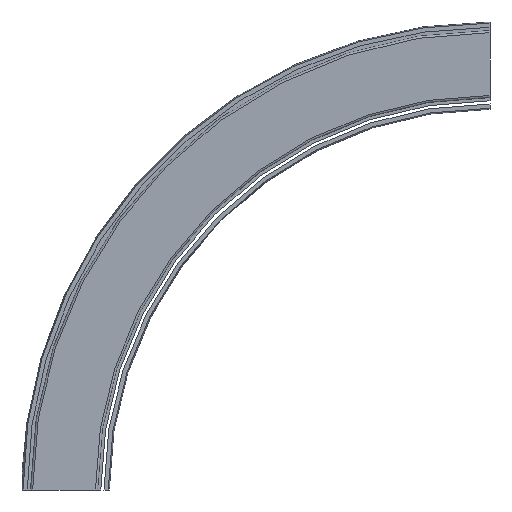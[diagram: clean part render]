
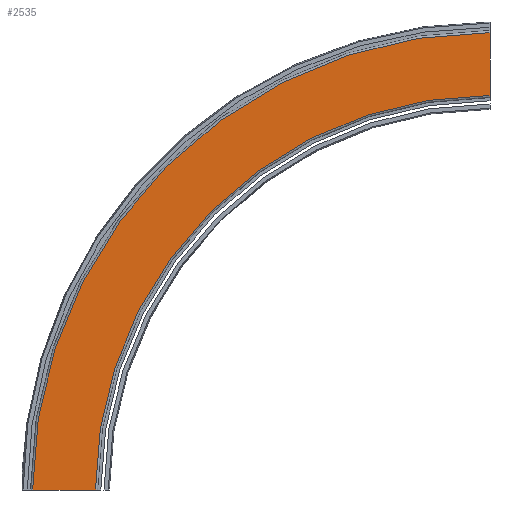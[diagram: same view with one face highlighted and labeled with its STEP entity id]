
A CAD part, left-side view. The second image highlights one B-rep face of the part: STEP entity #2535.
In plain terms, the highlighted planar face has unit normal (-1, 0, 0).
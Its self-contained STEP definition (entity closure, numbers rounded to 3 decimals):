
#2475=CARTESIAN_POINT('',(-43.0,-368.5,370.5));
#2476=VERTEX_POINT('',#2475);
#2484=CARTESIAN_POINT('',(-43.0,2.,0.0));
#2485=VERTEX_POINT('',#2484);
#2486=CARTESIAN_POINT('',(-43.0,-368.5,0.));
#2487=DIRECTION('',(1.0,0.0,0.0));
#2488=DIRECTION('',(0.0,1.0,0.0));
#2489=AXIS2_PLACEMENT_3D('',#2486,#2487,#2488);
#2490=CIRCLE('',#2489,370.5);
#2491=EDGE_CURVE('',#2485,#2476,#2490,.T.);
#2504=CARTESIAN_POINT('',(-43.0,31.5,0.0));
#2505=DIRECTION('',(-1.0,0.0,0.0));
#2506=DIRECTION('',(0.0,0.0,1.0));
#2507=AXIS2_PLACEMENT_3D('',#2504,#2505,#2506);
#2508=PLANE('',#2507);
#2509=CARTESIAN_POINT('',(-43.0,-368.5,429.5));
#2510=VERTEX_POINT('',#2509);
#2511=CARTESIAN_POINT('',(-43.0,-368.5,370.5));
#2512=DIRECTION('',(0.0,0.0,1.0));
#2513=VECTOR('',#2512,59.0);
#2514=LINE('',#2511,#2513);
#2515=EDGE_CURVE('',#2476,#2510,#2514,.T.);
#2516=ORIENTED_EDGE('',*,*,#2515,.T.);
#2517=CARTESIAN_POINT('',(-43.0,61.0,0.0));
#2518=VERTEX_POINT('',#2517);
#2519=CARTESIAN_POINT('',(-43.0,-368.5,0.));
#2520=DIRECTION('',(1.0,0.0,0.0));
#2521=DIRECTION('',(0.0,1.0,0.0));
#2522=AXIS2_PLACEMENT_3D('',#2519,#2520,#2521);
#2523=CIRCLE('',#2522,429.5);
#2524=EDGE_CURVE('',#2518,#2510,#2523,.T.);
#2525=ORIENTED_EDGE('',*,*,#2524,.F.);
#2526=CARTESIAN_POINT('',(-43.0,61.0,0.0));
#2527=DIRECTION('',(0.0,-1.0,0.0));
#2528=VECTOR('',#2527,59.0);
#2529=LINE('',#2526,#2528);
#2530=EDGE_CURVE('',#2518,#2485,#2529,.T.);
#2531=ORIENTED_EDGE('',*,*,#2530,.T.);
#2532=ORIENTED_EDGE('',*,*,#2491,.T.);
#2533=EDGE_LOOP('',(#2516,#2525,#2531,#2532));
#2534=FACE_OUTER_BOUND('',#2533,.T.);
#2535=ADVANCED_FACE('',(#2534),#2508,.T.);
